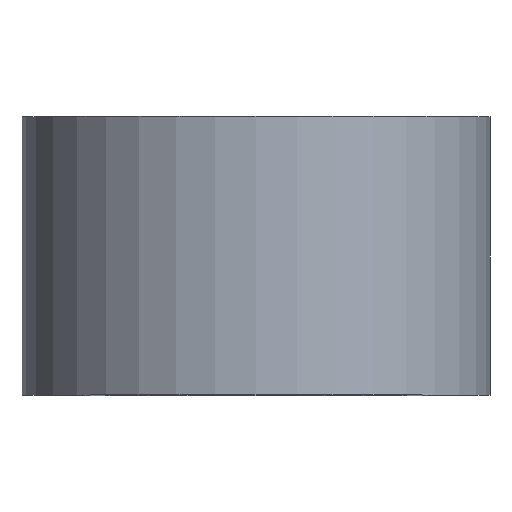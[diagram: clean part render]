
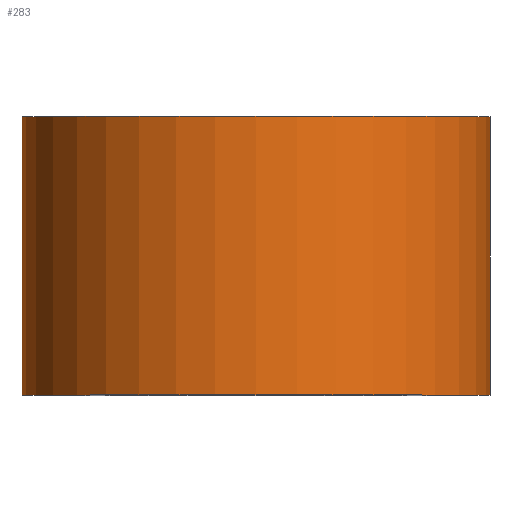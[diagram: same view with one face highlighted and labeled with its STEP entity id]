
A CAD part, top view. The second image highlights one B-rep face of the part: STEP entity #283.
In plain terms, the highlighted cylindrical face has radius 21 mm (diameter 42 mm), a partial arc.
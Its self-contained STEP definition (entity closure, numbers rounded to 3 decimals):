
#9 = EDGE_CURVE ( 'NONE', #173, #156, #71, .T. ) ;
#18 = VERTEX_POINT ( 'NONE', #63 ) ;
#22 = CARTESIAN_POINT ( 'NONE',  ( -21., 0., 0. ) ) ;
#39 = DIRECTION ( 'NONE',  ( 0., 1., 0. ) ) ;
#55 = CARTESIAN_POINT ( 'NONE',  ( 21., 25., 0. ) ) ;
#63 = CARTESIAN_POINT ( 'NONE',  ( -21., 25., 0. ) ) ;
#69 = DIRECTION ( 'NONE',  ( -1., 0., 0. ) ) ;
#71 = CIRCLE ( 'NONE', #280, 21. ) ;
#82 = ORIENTED_EDGE ( 'NONE', *, *, #9, .T. ) ;
#102 = CARTESIAN_POINT ( 'NONE',  ( 21., 0., 0. ) ) ;
#104 = DIRECTION ( 'NONE',  ( 0., 1., 0. ) ) ;
#126 = VECTOR ( 'NONE', #278, 1000. ) ;
#130 = EDGE_CURVE ( 'NONE', #18, #244, #204, .T. ) ;
#138 = DIRECTION ( 'NONE',  ( -1., 0., 0. ) ) ;
#141 = EDGE_LOOP ( 'NONE', ( #82, #192, #247, #239 ) ) ;
#156 = VERTEX_POINT ( 'NONE', #102 ) ;
#168 = CARTESIAN_POINT ( 'NONE',  ( 0., 0., 0. ) ) ;
#169 = LINE ( 'NONE', #22, #126 ) ;
#170 = AXIS2_PLACEMENT_3D ( 'NONE', #168, #39, #69 ) ;
#173 = VERTEX_POINT ( 'NONE', #254 ) ;
#179 = DIRECTION ( 'NONE',  ( 0., 1., 0. ) ) ;
#180 = AXIS2_PLACEMENT_3D ( 'NONE', #277, #104, #138 ) ;
#183 = EDGE_CURVE ( 'NONE', #156, #244, #216, .T. ) ;
#191 = CYLINDRICAL_SURFACE ( 'NONE', #170, 21. ) ;
#192 = ORIENTED_EDGE ( 'NONE', *, *, #183, .T. ) ;
#197 = EDGE_CURVE ( 'NONE', #173, #18, #169, .T. ) ;
#204 = CIRCLE ( 'NONE', #180, 21. ) ;
#216 = LINE ( 'NONE', #255, #282 ) ;
#233 = DIRECTION ( 'NONE',  ( -1., 0., 0. ) ) ;
#239 = ORIENTED_EDGE ( 'NONE', *, *, #197, .F. ) ;
#241 = FACE_OUTER_BOUND ( 'NONE', #141, .T. ) ;
#244 = VERTEX_POINT ( 'NONE', #55 ) ;
#245 = CARTESIAN_POINT ( 'NONE',  ( 0., 0., 0. ) ) ;
#247 = ORIENTED_EDGE ( 'NONE', *, *, #130, .F. ) ;
#254 = CARTESIAN_POINT ( 'NONE',  ( -21., 0., 0. ) ) ;
#255 = CARTESIAN_POINT ( 'NONE',  ( 21., 0., 0. ) ) ;
#258 = DIRECTION ( 'NONE',  ( 0., 1., 0. ) ) ;
#277 = CARTESIAN_POINT ( 'NONE',  ( 0., 25., 0. ) ) ;
#278 = DIRECTION ( 'NONE',  ( 0., 1., 0. ) ) ;
#280 = AXIS2_PLACEMENT_3D ( 'NONE', #245, #179, #233 ) ;
#282 = VECTOR ( 'NONE', #258, 1000. ) ;
#283 = ADVANCED_FACE ( 'NONE', ( #241 ), #191, .T. ) ;
